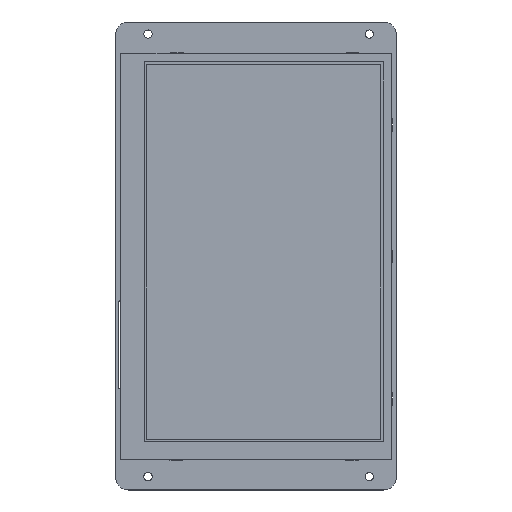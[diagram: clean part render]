
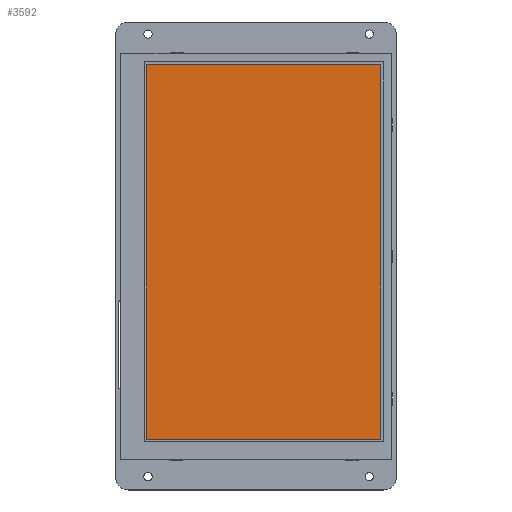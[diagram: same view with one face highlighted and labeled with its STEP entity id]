
A CAD part, top view. The second image highlights one B-rep face of the part: STEP entity #3592.
In plain terms, the highlighted planar face has unit normal (0, 0, 1).
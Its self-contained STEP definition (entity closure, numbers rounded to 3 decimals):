
#763=DIRECTION('',(1.,0.,0.));
#764=VECTOR('',#763,93.6);
#765=CARTESIAN_POINT('',(-44.752,76.246,7.65));
#766=LINE('',#765,#764);
#771=DIRECTION('',(0.,-1.,0.));
#772=VECTOR('',#771,149.76);
#773=CARTESIAN_POINT('',(48.848,76.246,7.65));
#774=LINE('',#773,#772);
#779=DIRECTION('',(-1.,0.,0.));
#780=VECTOR('',#779,93.6);
#781=CARTESIAN_POINT('',(48.848,-73.514,7.65));
#782=LINE('',#781,#780);
#787=DIRECTION('',(0.,1.,0.));
#788=VECTOR('',#787,149.76);
#789=CARTESIAN_POINT('',(-44.752,-73.514,7.65));
#790=LINE('',#789,#788);
#2487=CARTESIAN_POINT('',(-44.752,-73.514,7.65));
#2488=VERTEX_POINT('',#2487);
#2489=CARTESIAN_POINT('',(-44.752,76.246,7.65));
#2490=VERTEX_POINT('',#2489);
#2511=CARTESIAN_POINT('',(48.848,76.246,7.65));
#2512=VERTEX_POINT('',#2511);
#2513=CARTESIAN_POINT('',(48.848,-73.514,7.65));
#2514=VERTEX_POINT('',#2513);
#3581=CARTESIAN_POINT('',(-54.452,80.116,7.65));
#3582=DIRECTION('',(0.,0.,1.));
#3583=DIRECTION('',(0.,-1.,0.));
#3584=AXIS2_PLACEMENT_3D('',#3581,#3582,#3583);
#3585=PLANE('',#3584);
#3586=ORIENTED_EDGE('',*,*,#3533,.T.);
#3587=ORIENTED_EDGE('',*,*,#3548,.T.);
#3588=ORIENTED_EDGE('',*,*,#3562,.T.);
#3589=ORIENTED_EDGE('',*,*,#3575,.T.);
#3590=EDGE_LOOP('',(#3586,#3587,#3588,#3589));
#3591=FACE_OUTER_BOUND('',#3590,.F.);
#3533=EDGE_CURVE('',#2490,#2512,#766,.T.);
#3548=EDGE_CURVE('',#2512,#2514,#774,.T.);
#3562=EDGE_CURVE('',#2514,#2488,#782,.T.);
#3575=EDGE_CURVE('',#2488,#2490,#790,.T.);
#3592=ADVANCED_FACE('',(#3591),#3585,.T.);
